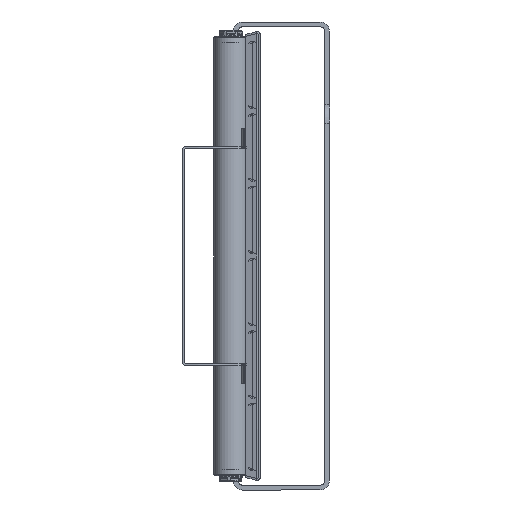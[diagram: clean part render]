
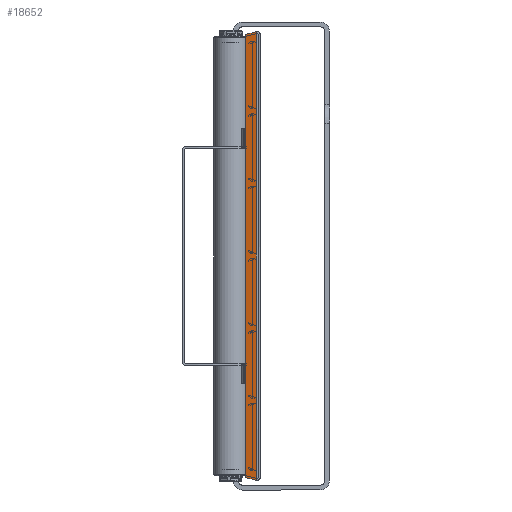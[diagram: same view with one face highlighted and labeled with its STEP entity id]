
A CAD part, front view. The second image highlights one B-rep face of the part: STEP entity #18652.
In plain terms, the highlighted planar face has unit normal (-0.259, -0.966, 0) as drawn and (0, -0.966, -0.259) by its records, which use the part's own axes.
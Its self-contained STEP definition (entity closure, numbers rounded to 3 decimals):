
#336 = EDGE_CURVE ( 'NONE', #8427, #2985, #23288, .T. ) ;
#1761 = CARTESIAN_POINT ( 'NONE',  ( -229.5, -757., 0. ) ) ;
#2099 = CARTESIAN_POINT ( 'NONE',  ( -229.5, -757., 0. ) ) ;
#2210 = AXIS2_PLACEMENT_3D ( 'NONE', #2099, #18627, #18862 ) ;
#2372 = CARTESIAN_POINT ( 'NONE',  ( 229.5, -757., 0. ) ) ;
#2451 = CARTESIAN_POINT ( 'NONE',  ( 132.61, -757., 0. ) ) ;
#2552 = VECTOR ( 'NONE', #13430, 1000. ) ;
#2596 = VERTEX_POINT ( 'NONE', #4791 ) ;
#2660 = ORIENTED_EDGE ( 'NONE', *, *, #22844, .T. ) ;
#2811 = LINE ( 'NONE', #10381, #3425 ) ;
#2985 = VERTEX_POINT ( 'NONE', #12822 ) ;
#3069 = ORIENTED_EDGE ( 'NONE', *, *, #20640, .F. ) ;
#3425 = VECTOR ( 'NONE', #16218, 1000. ) ;
#3626 = LINE ( 'NONE', #1761, #2552 ) ;
#4420 = LINE ( 'NONE', #7898, #9771 ) ;
#4791 = CARTESIAN_POINT ( 'NONE',  ( -112.61, -757., 0. ) ) ;
#5031 = CARTESIAN_POINT ( 'NONE',  ( -232.507, -760.007, 11.224 ) ) ;
#5239 = DIRECTION ( 'NONE',  ( -0.251, 0.251, -0.935 ) ) ;
#5353 = LINE ( 'NONE', #12945, #10575 ) ;
#6497 = CARTESIAN_POINT ( 'NONE',  ( -229.5, -757., 0. ) ) ;
#6795 = VERTEX_POINT ( 'NONE', #17255 ) ;
#6927 = VERTEX_POINT ( 'NONE', #2372 ) ;
#7218 = EDGE_LOOP ( 'NONE', ( #3069, #17695, #2660, #17174, #15394, #17996, #24417, #8329 ) ) ;
#7554 = PLANE ( 'NONE',  #2210 ) ;
#7770 = DIRECTION ( 'NONE',  ( 1., 0., 0. ) ) ;
#7898 = CARTESIAN_POINT ( 'NONE',  ( -229.5, -757., 0. ) ) ;
#8122 = DIRECTION ( 'NONE',  ( 0.251, 0.251, -0.935 ) ) ;
#8329 = ORIENTED_EDGE ( 'NONE', *, *, #20137, .T. ) ;
#8427 = VERTEX_POINT ( 'NONE', #14746 ) ;
#9191 = VERTEX_POINT ( 'NONE', #5031 ) ;
#9625 = CARTESIAN_POINT ( 'NONE',  ( -229.5, -757., 0. ) ) ;
#9771 = VECTOR ( 'NONE', #7770, 1000. ) ;
#10012 = DIRECTION ( 'NONE',  ( 1., 0., 0. ) ) ;
#10381 = CARTESIAN_POINT ( 'NONE',  ( -229.5, -760.007, 11.224 ) ) ;
#10440 = VECTOR ( 'NONE', #8122, 1000. ) ;
#10575 = VECTOR ( 'NONE', #5239, 1000. ) ;
#10739 = CARTESIAN_POINT ( 'NONE',  ( 132.61, -757., 0. ) ) ;
#11133 = VECTOR ( 'NONE', #22118, 1000. ) ;
#12822 = CARTESIAN_POINT ( 'NONE',  ( -132.61, -757., 0. ) ) ;
#12945 = CARTESIAN_POINT ( 'NONE',  ( 229.5, -757., 0. ) ) ;
#13373 = CARTESIAN_POINT ( 'NONE',  ( 112.61, -757., 0. ) ) ;
#13430 = DIRECTION ( 'NONE',  ( 1., 0., 0. ) ) ;
#13881 = EDGE_CURVE ( 'NONE', #2985, #2596, #23493, .T. ) ;
#14746 = CARTESIAN_POINT ( 'NONE',  ( -229.5, -757., 0. ) ) ;
#15020 = FACE_OUTER_BOUND ( 'NONE', #7218, .T. ) ;
#15315 = VECTOR ( 'NONE', #10012, 1000. ) ;
#15394 = ORIENTED_EDGE ( 'NONE', *, *, #13881, .T. ) ;
#16070 = LINE ( 'NONE', #6497, #10440 ) ;
#16218 = DIRECTION ( 'NONE',  ( -1., 0., 0. ) ) ;
#16781 = VERTEX_POINT ( 'NONE', #10739 ) ;
#16971 = VECTOR ( 'NONE', #21182, 1000. ) ;
#17174 = ORIENTED_EDGE ( 'NONE', *, *, #336, .T. ) ;
#17255 = CARTESIAN_POINT ( 'NONE',  ( 232.507, -760.007, 11.224 ) ) ;
#17565 = VERTEX_POINT ( 'NONE', #13373 ) ;
#17695 = ORIENTED_EDGE ( 'NONE', *, *, #21370, .T. ) ;
#17996 = ORIENTED_EDGE ( 'NONE', *, *, #18250, .T. ) ;
#18250 = EDGE_CURVE ( 'NONE', #2596, #17565, #3626, .T. ) ;
#18627 = DIRECTION ( 'NONE',  ( 0., -0.966, -0.259 ) ) ;
#18652 = ADVANCED_FACE ( 'NONE', ( #15020 ), #7554, .T. ) ;
#18862 = DIRECTION ( 'NONE',  ( 0., 0.259, -0.966 ) ) ;
#19331 = LINE ( 'NONE', #2451, #15315 ) ;
#19533 = EDGE_CURVE ( 'NONE', #17565, #16781, #19331, .T. ) ;
#19892 = CARTESIAN_POINT ( 'NONE',  ( -112.61, -757., 0. ) ) ;
#20137 = EDGE_CURVE ( 'NONE', #16781, #6927, #4420, .T. ) ;
#20640 = EDGE_CURVE ( 'NONE', #6795, #6927, #5353, .T. ) ;
#21182 = DIRECTION ( 'NONE',  ( 1., 0., 0. ) ) ;
#21370 = EDGE_CURVE ( 'NONE', #6795, #9191, #2811, .T. ) ;
#22118 = DIRECTION ( 'NONE',  ( 1., 0., 0. ) ) ;
#22844 = EDGE_CURVE ( 'NONE', #9191, #8427, #16070, .T. ) ;
#23288 = LINE ( 'NONE', #9625, #16971 ) ;
#23493 = LINE ( 'NONE', #19892, #11133 ) ;
#24417 = ORIENTED_EDGE ( 'NONE', *, *, #19533, .T. ) ;
